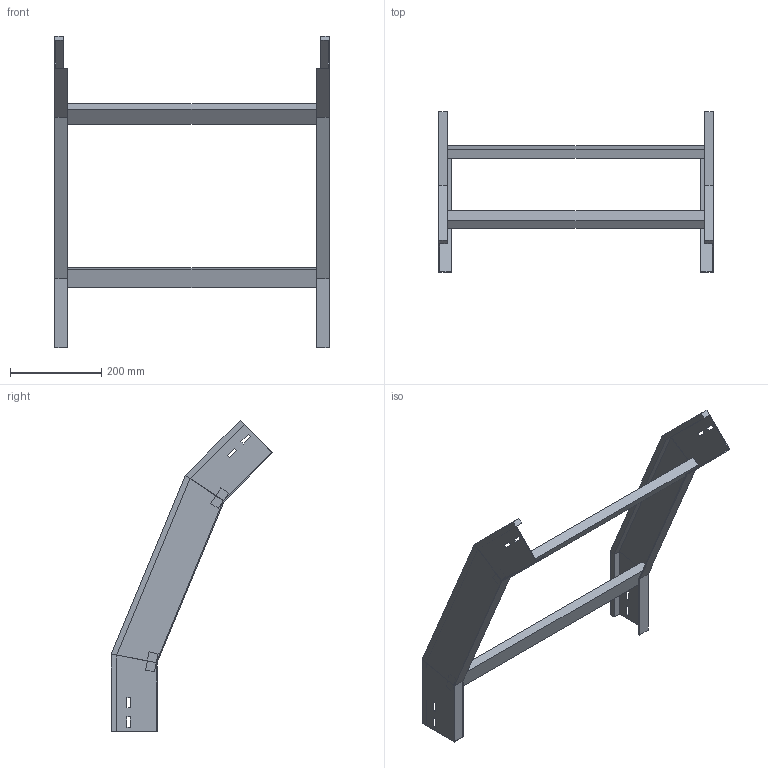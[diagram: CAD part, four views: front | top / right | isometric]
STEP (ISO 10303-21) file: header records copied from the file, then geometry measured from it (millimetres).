
FILE_DESCRIPTION (( 'STEP AP214' ), '1' );
FILE_NAME ('34B5D600.step', '2025-02-21T14:51:08', ( '' ), ( '' ), 'SwSTEP 2.0', 'SolidWorks 2023', '' );
FILE_SCHEMA (( 'AUTOMOTIVE_DESIGN' ));
Length unit declared in the file: millimetre
Products named in the file (3): LONGH.DISCESA_45°_H100_R500; TRAVERSINO_600; 34B5D600
Assembly tree (5 placements, depth 2):
  34B5D600
    LONGH.DISCESA_45°_H100_R500  x2
    TRAVERSINO_600  x3
Bounding box: 600 x 352.63 x 680.62 mm (x, y, z)
Volume: 2094300.3 mm3; surface area: 633213.4 mm2
Topology: 5 solids, 5 shells, 102 faces, 244 edges, 152 vertices
Faces by surface type: plane 102
Entity records: 1480 total; most frequent: CARTESIAN_POINT 244, ORIENTED_EDGE 232, DIRECTION 228, EDGE_CURVE 116, VECTOR 116, LINE 116, VERTEX_POINT 72, AXIS2_PLACEMENT_3D 56
